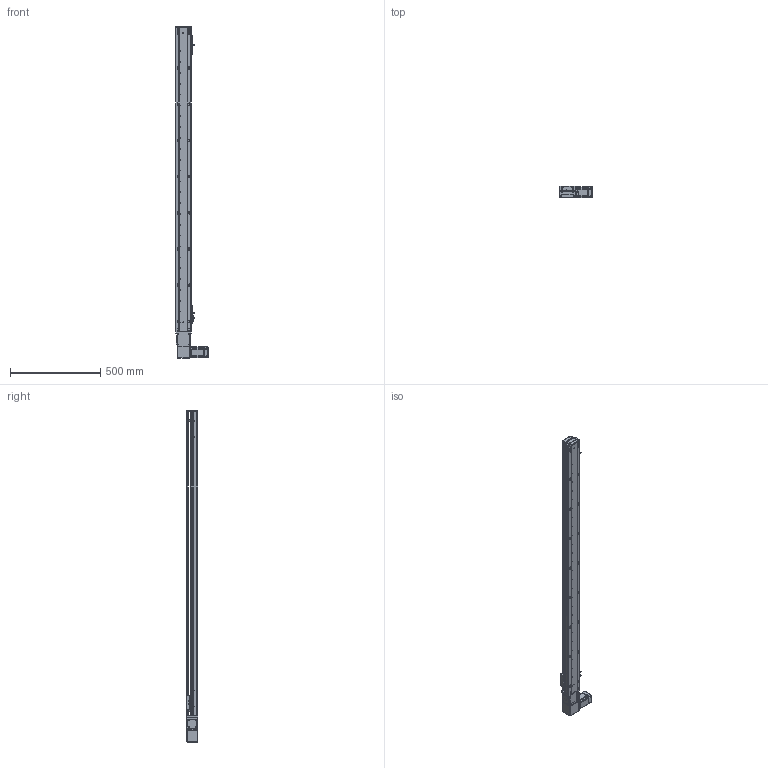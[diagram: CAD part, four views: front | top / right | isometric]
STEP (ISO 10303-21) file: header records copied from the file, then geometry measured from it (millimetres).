
FILE_DESCRIPTION (( 'STEP AP203' ), '1' );
FILE_NAME ('RY80-T-300-RK.SLDASM_1500.step', '2021-03-01T02:08:04', ( '盈信电脑' ), ( '东莞市道滘镇水果街19号' ), 'SwSTEP 2.0', 'SolidWorks 2012', '' );
FILE_SCHEMA (( 'CONFIG_CONTROL_DESIGN' ));
Products named in the file (20): RY80-T-300-RK.SLDASM_1500; 滅袉蝶18-10; RY100-T粣創揤踡裔; RY80-T肮祭謫俋欶; RY80-T肮祭湍揤輸2; RY80-T粣創揤踡輸; RY80-T翋肮祭謫裔啣; RY80-T-M4蹟翐; 侂狟200W萇儂; RY80-T-翋肮祭謫釱; RY80-T萇儂假蚾啣; RY80-T肮祭湍揤輸1; 覜茼ん672; 1; 672嫖萇羲壽假蚾釱; RY80俋离覜茼え; RY80-T綴裔啣; RY80-T-300-RK倰第奻裔啣_1500; RY80-T肮祭謫臏賑輸; RY80-T-300-RK倰第菁釱_1500
Assembly tree (25 placements, depth 3):
  RY80-T-300-RK.SLDASM_1500
    RY80-T-300-RK倰第菁釱_1500
    RY80-T肮祭謫臏賑輸
    RY80-T-300-RK倰第奻裔啣_1500
    RY80-T綴裔啣
    672嫖萇羲壽假蚾釱  x2
    覜茼ん672  x3
    RY80俋离覜茼え
    侂狟200W萇儂
      1
    RY80-T-翋肮祭謫釱
    RY80-T萇儂假蚾啣
    RY80-T肮祭湍揤輸1
    RY80-T肮祭湍揤輸2
    RY80-T粣創揤踡輸
    RY80-T-M4蹟翐  x2
    RY80-T翋肮祭謫裔啣  x2
    RY80-T肮祭謫俋欶
    滅袉蝶18-10  x2
    RY100-T粣創揤踡裔
Bounding box: 180 x 65 x 1835 mm (x, y, z)
Volume: 2840705.4 mm3; surface area: 1205335.4 mm2
Topology: 24 solids, 24 shells, 2580 faces, 7131 edges, 4637 vertices
Faces by surface type: plane 1350, cylinder 1024, cone 150, bspline 56
Entity records: 82030 total; most frequent: CARTESIAN_POINT 20245, ORIENTED_EDGE 12706, DIRECTION 11902, EDGE_CURVE 6353, VERTEX_POINT 4178, AXIS2_PLACEMENT_3D 4039, VECTOR 3824, LINE 3824
